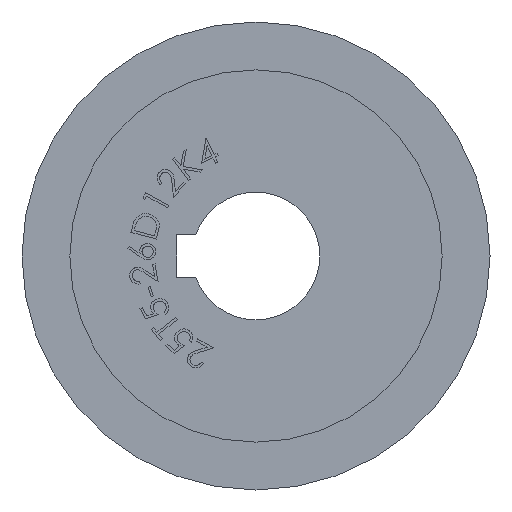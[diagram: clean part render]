
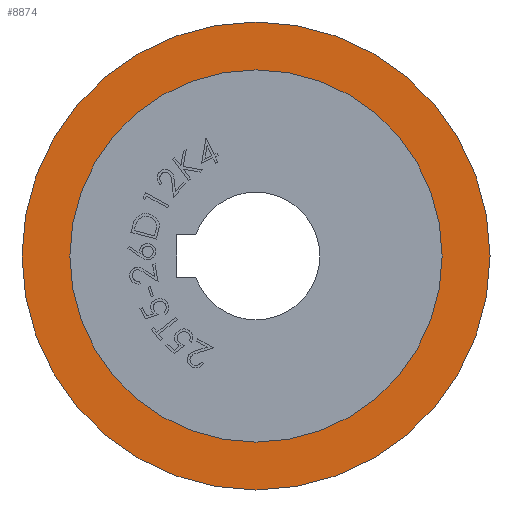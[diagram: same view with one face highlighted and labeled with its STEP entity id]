
A CAD part, left-side view. The second image highlights one B-rep face of the part: STEP entity #8874.
In plain terms, the highlighted planar face has unit normal (-1, 0, 0).
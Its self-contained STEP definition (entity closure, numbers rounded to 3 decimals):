
#143 = EDGE_CURVE ( 'NONE', #1311, #301, #15874, .T. ) ;
#301 = VERTEX_POINT ( 'NONE', #5415 ) ;
#1311 = VERTEX_POINT ( 'NONE', #3040 ) ;
#2070 = CARTESIAN_POINT ( 'NONE',  ( 0.35, 0., -17.5 ) ) ;
#2388 = FACE_OUTER_BOUND ( 'NONE', #16125, .T. ) ;
#2526 = ORIENTED_EDGE ( 'NONE', *, *, #14806, .T. ) ;
#3040 = CARTESIAN_POINT ( 'NONE',  ( 0.35, 0., -22. ) ) ;
#3199 = AXIS2_PLACEMENT_3D ( 'NONE', #15037, #7428, #14878 ) ;
#3864 = FACE_BOUND ( 'NONE', #13854, .T. ) ;
#5029 = CARTESIAN_POINT ( 'NONE',  ( 0.35, 0., 17.5 ) ) ;
#5415 = CARTESIAN_POINT ( 'NONE',  ( 0.35, 0., 22. ) ) ;
#6004 = AXIS2_PLACEMENT_3D ( 'NONE', #9796, #16069, #12444 ) ;
#6006 = DIRECTION ( 'NONE',  ( -1., 0., 0. ) ) ;
#6020 = PLANE ( 'NONE',  #3199 ) ;
#6380 = DIRECTION ( 'NONE',  ( -1., 0., 0. ) ) ;
#6812 = ORIENTED_EDGE ( 'NONE', *, *, #8006, .F. ) ;
#7067 = DIRECTION ( 'NONE',  ( -1., 0., 0. ) ) ;
#7253 = CARTESIAN_POINT ( 'NONE',  ( 0.35, 0., 0. ) ) ;
#7428 = DIRECTION ( 'NONE',  ( 1., 0., 0. ) ) ;
#8006 = EDGE_CURVE ( 'NONE', #15665, #11518, #12761, .T. ) ;
#8874 = ADVANCED_FACE ( 'NONE', ( #3864, #2388 ), #6020, .F. ) ;
#9047 = AXIS2_PLACEMENT_3D ( 'NONE', #12113, #7067, #14602 ) ;
#9796 = CARTESIAN_POINT ( 'NONE',  ( 0.35, 0., 0. ) ) ;
#10212 = AXIS2_PLACEMENT_3D ( 'NONE', #11513, #6380, #15306 ) ;
#11086 = EDGE_CURVE ( 'NONE', #11518, #15665, #16002, .T. ) ;
#11513 = CARTESIAN_POINT ( 'NONE',  ( 0.35, 0., 0. ) ) ;
#11518 = VERTEX_POINT ( 'NONE', #5029 ) ;
#11929 = AXIS2_PLACEMENT_3D ( 'NONE', #7253, #6006, #12303 ) ;
#12113 = CARTESIAN_POINT ( 'NONE',  ( 0.35, 0., 0. ) ) ;
#12303 = DIRECTION ( 'NONE',  ( 0., 0., 1. ) ) ;
#12444 = DIRECTION ( 'NONE',  ( 0., 0., 1. ) ) ;
#12576 = ORIENTED_EDGE ( 'NONE', *, *, #11086, .F. ) ;
#12761 = CIRCLE ( 'NONE', #9047, 17.5 ) ;
#13854 = EDGE_LOOP ( 'NONE', ( #12576, #6812 ) ) ;
#14602 = DIRECTION ( 'NONE',  ( 0., 0., 1. ) ) ;
#14806 = EDGE_CURVE ( 'NONE', #301, #1311, #15775, .T. ) ;
#14878 = DIRECTION ( 'NONE',  ( 0., 1., 0. ) ) ;
#15037 = CARTESIAN_POINT ( 'NONE',  ( 0.35, 17.5, 0. ) ) ;
#15306 = DIRECTION ( 'NONE',  ( 0., 0., 1. ) ) ;
#15665 = VERTEX_POINT ( 'NONE', #2070 ) ;
#15775 = CIRCLE ( 'NONE', #6004, 22. ) ;
#15874 = CIRCLE ( 'NONE', #11929, 22. ) ;
#16002 = CIRCLE ( 'NONE', #10212, 17.5 ) ;
#16069 = DIRECTION ( 'NONE',  ( -1., 0., 0. ) ) ;
#16125 = EDGE_LOOP ( 'NONE', ( #2526, #16356 ) ) ;
#16356 = ORIENTED_EDGE ( 'NONE', *, *, #143, .T. ) ;
